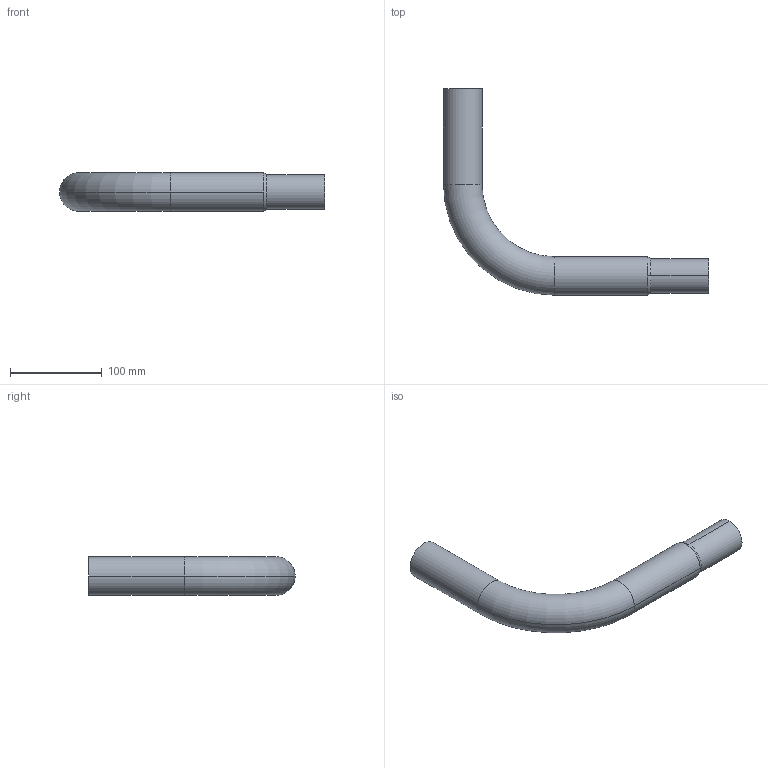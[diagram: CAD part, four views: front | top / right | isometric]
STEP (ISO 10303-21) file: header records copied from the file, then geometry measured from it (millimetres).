
FILE_DESCRIPTION (( 'STEP AP203' ), '1' );
FILE_NAME ('Rostfritt rör Ø42x1,5 hörn.STEP', '2014-09-26T06:25:19', ( '' ), ( '' ), 'SwSTEP 2.0', 'SolidWorks 2014', '' );
FILE_SCHEMA (( 'CONFIG_CONTROL_DESIGN' ));
Length unit declared in the file: millimetre
Products named in the file (1): Rostfritt rör Ø42x1,5 hörn
Bounding box: 289 x 225 x 42 mm (x, y, z)
Volume: 80762.7 mm3; surface area: 108046.5 mm2
Topology: 1 solids, 1 shells, 22 faces, 48 edges, 28 vertices
Faces by surface type: cylinder 12, torus 4, cone 4, plane 2
Entity records: 689 total; most frequent: DIRECTION 126, CARTESIAN_POINT 99, ORIENTED_EDGE 96, AXIS2_PLACEMENT_3D 55, EDGE_CURVE 48, CIRCLE 32, VERTEX_POINT 28, EDGE_LOOP 24
